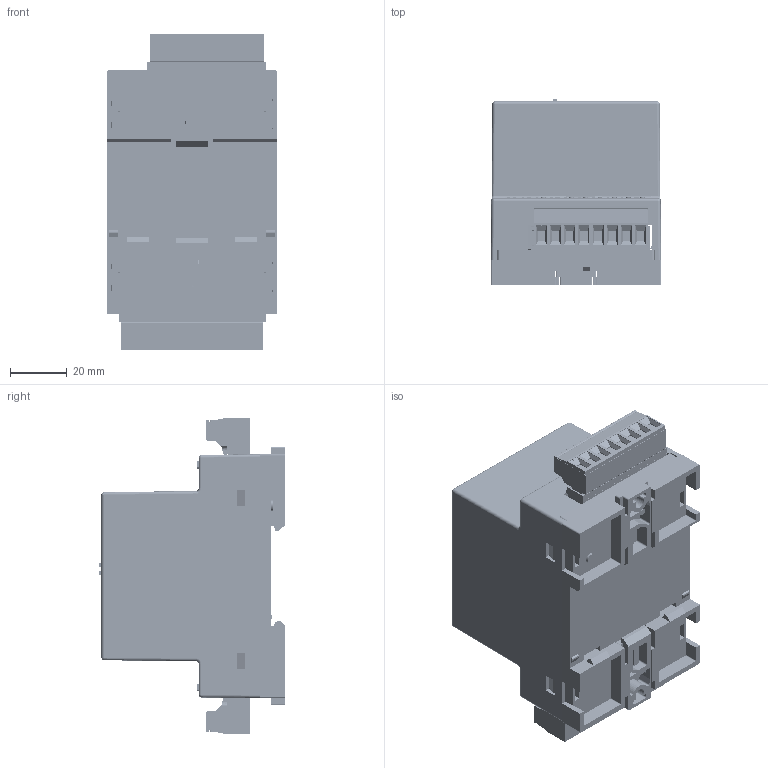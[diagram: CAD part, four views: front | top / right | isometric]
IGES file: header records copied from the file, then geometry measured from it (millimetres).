
Start section: SolidWorks IGES file using analytic representation for surfaces
Global section: file name: D:\Modeling Work\Macromatic\2018\ISDUR4\ISDUR4.IGS; native system: SolidWorks 2020; preprocessor: SolidWorks 2020; author: mdahl; date: 201115.182944; units: inch
Bounding box: 60 x 65.69 x 111.7 mm (x, y, z)
Surface area: 83666 mm2 (no closed solid volume)
Topology: 0 solids, 0 shells, 5552 faces, 60696 edges, 60655 vertices
Faces by surface type: bspline 4245, revolution 1307
